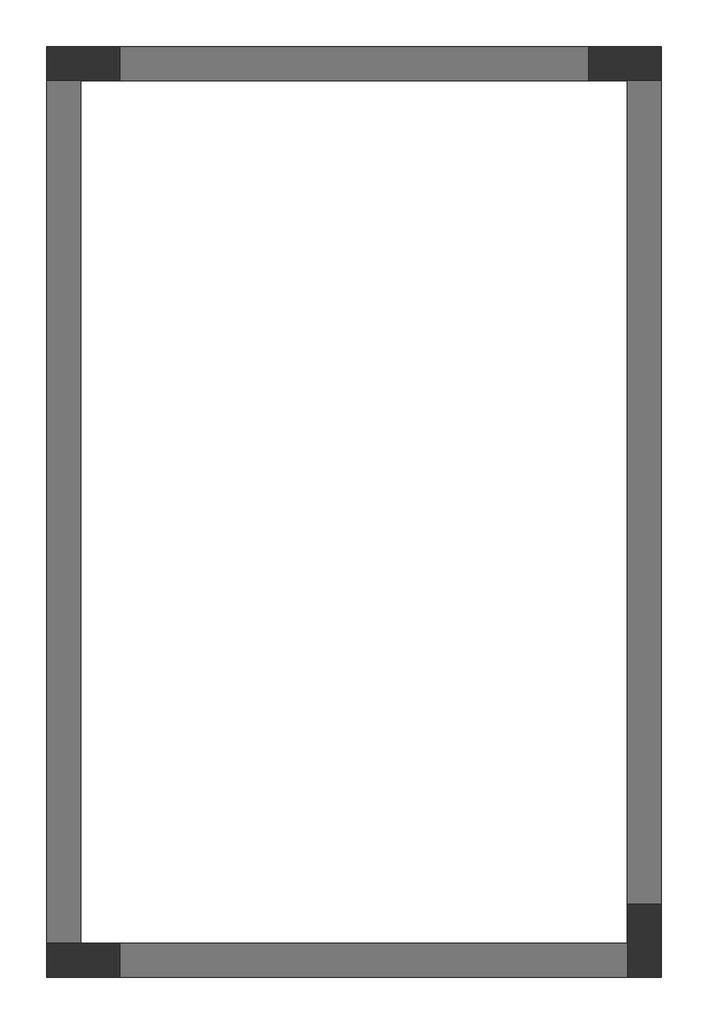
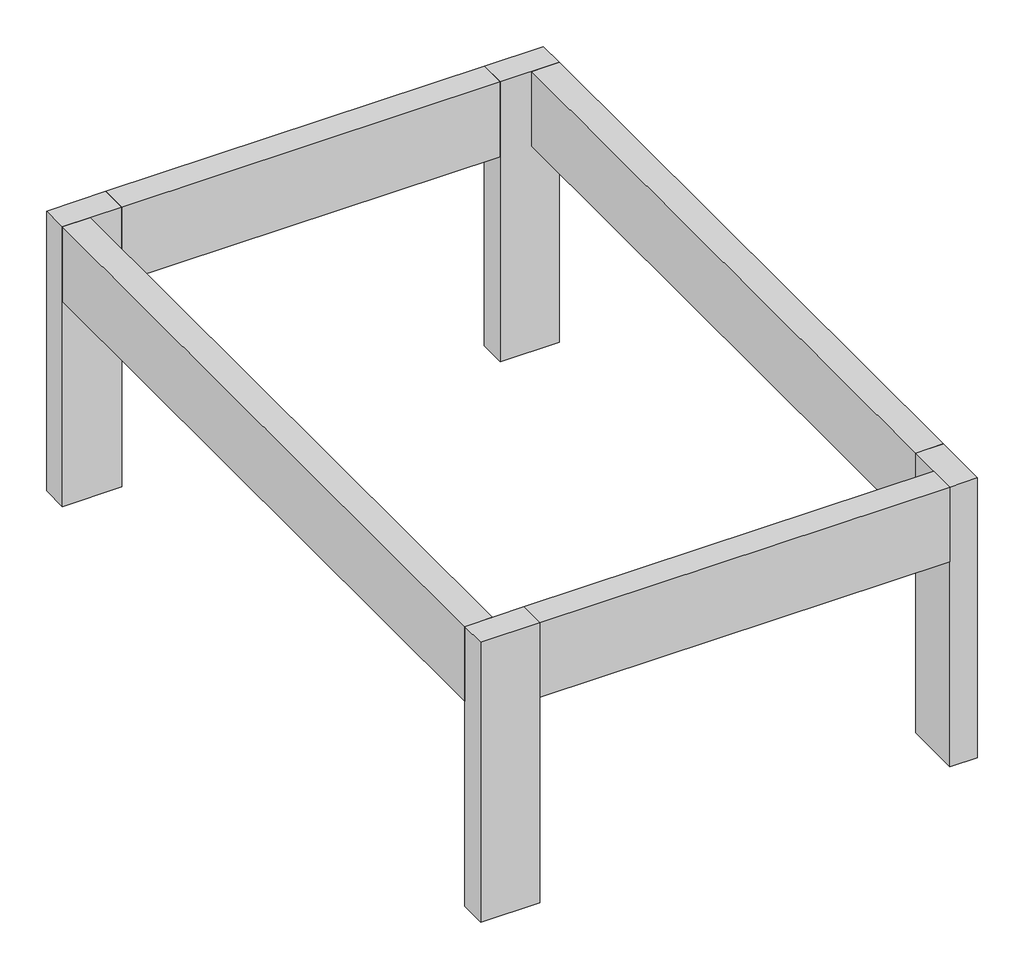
# One storey: 4 columns, 4 proxies.
"""IFC4 building model written with IfcOpenShell, lengths in millimetres."""

from ifc_helpers import new_model, si_unit, frame, origin, place, context, project, spatial, polyline, outline, extrude, transform, mapped, element, save
from components import structural_framing_3c3ba4f2, structural_framing_2f219649, structural_framing_e7eb55c1, structural_framing_04662860

model = new_model("IFC4")

# Units and contexts
model_context = context("Model", 3, world=origin())
ifc_project = project(units=[si_unit("LENGTHUNIT", "METRE", prefix="MILLI")], contexts=[model_context])

# Site, building, storey
site = spatial("IfcSite", under=ifc_project)
building = spatial("IfcBuilding", under=site)
storey = spatial("IfcBuildingStorey", under=building, Name="PLATIBANDA", Elevation=4700.0)

# Proxies
placement = place(None, origin())
structural_framing_shape = structural_framing_3c3ba4f2(model_context)
element("IfcBuildingElementProxy", 1, Name="Structural Framing", at=placement, inside=storey, context=model_context, shape_type="MappedRepresentation", body=[
    mapped(structural_framing_shape, transform((12662.2, 13792.6, 6200.0), x_axis=(1.0, 0.0, 0.0), y_axis=(0.0, 1.0, 0.0), z_axis=(0.0, 0.0, 1.0))),
])
structural_framing_2_shape = structural_framing_2f219649(model_context)
element("IfcBuildingElementProxy", 2, Name="Structural Framing", at=placement, inside=storey, context=model_context, shape_type="MappedRepresentation", body=[
    mapped(structural_framing_2_shape, transform((13852.0, 15630.0, 6200.0), x_axis=(1.0, 0.0, 0.0), y_axis=(0.0, 1.0, 0.0), z_axis=(0.0, 0.0, 1.0))),
])
structural_framing_3_shape = structural_framing_e7eb55c1(model_context)
element("IfcBuildingElementProxy", 3, Name="Structural Framing", at=placement, inside=storey, context=model_context, shape_type="MappedRepresentation", body=[
    mapped(structural_framing_3_shape, transform((13932.0, 11955.2, 6200.0), x_axis=(1.0, 0.0, 0.0), y_axis=(0.0, 1.0, 0.0), z_axis=(0.0, 0.0, 1.0))),
])
structural_framing_4_shape = structural_framing_04662860(model_context)
element("IfcBuildingElementProxy", 4, Name="Structural Framing", at=placement, inside=storey, context=model_context, shape_type="MappedRepresentation", body=[
    mapped(structural_framing_4_shape, transform((15041.8, 13872.6, 6200.0), x_axis=(1.0, 0.0, 0.0), y_axis=(0.0, 1.0, 0.0), z_axis=(0.0, 0.0, 1.0))),
])

# Columns
element("IfcColumn", 5, at=placement, inside=storey, context=model_context, shape_type="SweptSolid", body=[
    extrude(outline(polyline([(15111.8, 15700.0), (15111.8, 15560.0), (14811.8, 15560.0), (14811.8, 15700.0), (15111.8, 15700.0)])), frame((0.0, 0.0, 4700.0), z_axis=(0.0, 0.0, 1.0), x_axis=(1.0, 0.0, 0.0)), (0.0, 0.0, 1.0), 1500.0),
    extrude(outline(polyline([(15111.8, 15700.0), (15111.8, 15560.0), (14811.8, 15560.0), (14811.8, 15700.0), (15111.8, 15700.0)])), frame((0.0, 0.0, 4700.0), z_axis=(0.0, 0.0, 1.0), x_axis=(1.0, 0.0, 0.0)), (0.0, 0.0, 1.0), 1500.0),
])
element("IfcColumn", 6, at=placement, inside=storey, context=model_context, shape_type="SweptSolid", body=[
    extrude(outline(polyline([(12892.2, 15700.0), (12892.2, 15560.0), (12592.2, 15560.0), (12592.2, 15700.0), (12892.2, 15700.0)])), frame((0.0, 0.0, 4700.0), z_axis=(0.0, 0.0, 1.0), x_axis=(1.0, 0.0, 0.0)), (0.0, 0.0, 1.0), 1500.0),
    extrude(outline(polyline([(12892.2, 15700.0), (12892.2, 15560.0), (12592.2, 15560.0), (12592.2, 15700.0), (12892.2, 15700.0)])), frame((0.0, 0.0, 4700.0), z_axis=(0.0, 0.0, 1.0), x_axis=(1.0, 0.0, 0.0)), (0.0, 0.0, 1.0), 1500.0),
])
element("IfcColumn", 7, at=placement, inside=storey, context=model_context, shape_type="SweptSolid", body=[
    extrude(outline(polyline([(12892.2, 12025.2), (12892.2, 11885.2), (12592.2, 11885.2), (12592.2, 12025.2), (12892.2, 12025.2)])), frame((0.0, 0.0, 4700.0), z_axis=(0.0, 0.0, 1.0), x_axis=(1.0, 0.0, 0.0)), (0.0, 0.0, 1.0), 1500.0),
    extrude(outline(polyline([(12892.2, 12025.2), (12892.2, 11885.2), (12592.2, 11885.2), (12592.2, 12025.2), (12892.2, 12025.2)])), frame((0.0, 0.0, 4700.0), z_axis=(0.0, 0.0, 1.0), x_axis=(1.0, 0.0, 0.0)), (0.0, 0.0, 1.0), 1500.0),
])
element("IfcColumn", 8, at=placement, inside=storey, context=model_context, shape_type="SweptSolid", body=[
    extrude(outline(polyline([(14971.8, 12185.2), (15111.8, 12185.2), (15111.8, 11885.2), (14971.8, 11885.2), (14971.8, 12185.2)])), frame((0.0, 0.0, 4700.0), z_axis=(0.0, 0.0, 1.0), x_axis=(1.0, 0.0, 0.0)), (0.0, 0.0, 1.0), 1500.0),
    extrude(outline(polyline([(14971.8, 12185.2), (15111.8, 12185.2), (15111.8, 11885.2), (14971.8, 11885.2), (14971.8, 12185.2)])), frame((0.0, 0.0, 4700.0), z_axis=(0.0, 0.0, 1.0), x_axis=(1.0, 0.0, 0.0)), (0.0, 0.0, 1.0), 1500.0),
])

save(model, "model.ifc")
